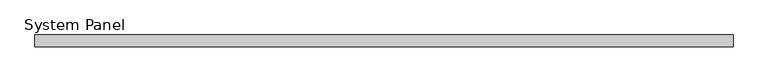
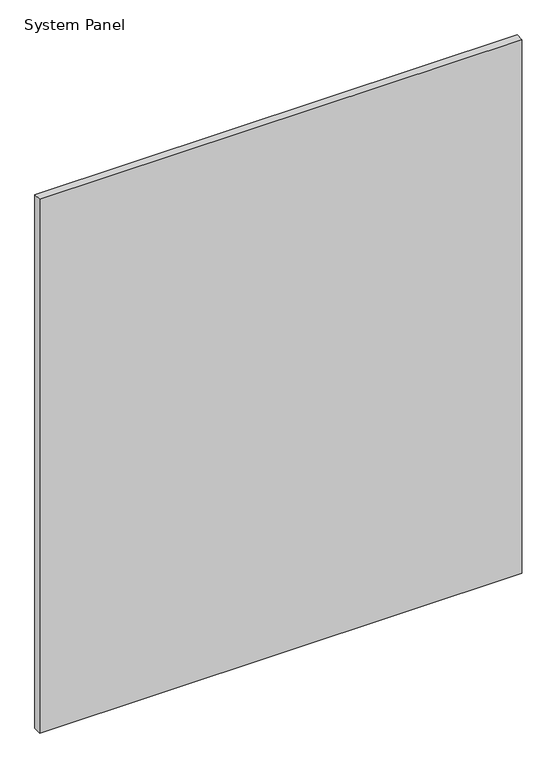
"""IFC4 building model written with IfcOpenShell, lengths in millimetres: plate geometry, System Panel : Panel_Glazed_Generic Showcase_30mm."""

import ifcopenshell
import ifcopenshell.guid

model = None  # the IFC model being written
_history = None  # IfcOwnerHistory: only IFC2X3 demands one
_inside = {}  # id of a spatial element -> (the spatial element, [elements in it])
_under = {}  # id of a project, library or spatial element -> (it, [spatial elements below it])
_declared = {}  # id of a project -> (the project, [libraries it declares])
_typed = {}  # id of a type object -> (the type object, [elements of that type])
_made_of = {}  # id of a material, layer set ... -> (it, [elements and type objects made of it])


def new_model(schema):
    """Start an empty IFC model of exactly this schema.

    Asked for "IFC4X3", IfcOpenShell would pick the latest addendum, in which some entities
    have other attributes; the version numbers below select the first issue.
    IFC2X3 requires an IfcOwnerHistory on every rooted entity: one is made here for all.
    """
    global model, _history
    if schema == "IFC4X3":
        model = ifcopenshell.file(schema_version=(4, 3, 0, 0))
    else:
        model = ifcopenshell.file(schema=schema)
    _inside.clear()
    _under.clear()
    _declared.clear()
    _typed.clear()
    _made_of.clear()
    _history = None
    if model.schema == "IFC2X3":
        org = make("IfcOrganization", Name="unknown")
        user = make(
            "IfcPersonAndOrganization",
            ThePerson=make("IfcPerson", FamilyName="unknown"),
            TheOrganization=org,
        )
        app = make(
            "IfcApplication",
            ApplicationDeveloper=org,
            Version="unknown",
            ApplicationFullName="unknown",
            ApplicationIdentifier="unknown",
        )
        _history = make(
            "IfcOwnerHistory",
            OwningUser=user,
            OwningApplication=app,
            ChangeAction="ADDED",
            CreationDate=0,
        )
    return model


def make(cls, **values):
    """One entity of the class cls with the attributes given. An attribute that is None is left unset."""
    return model.create_entity(
        cls, **{name: value for name, value in values.items() if value is not None}
    )


def rooted(cls, **values):
    """An entity with a GlobalId (a new one), such as an element, a storey or a relation."""
    return make(cls, GlobalId=ifcopenshell.guid.new(), OwnerHistory=_history, **values)


def si_unit(unit_type, name, prefix=None):
    """IfcSIUnit, for example si_unit("LENGTHUNIT", "METRE", prefix="MILLI")."""
    return make("IfcSIUnit", UnitType=unit_type, Prefix=prefix, Name=name)


def assignment(units):
    """IfcUnitAssignment: the units of a project."""
    return None if units is None else make("IfcUnitAssignment", Units=units)


def point(xyz):
    """IfcCartesianPoint."""
    return None if xyz is None else make("IfcCartesianPoint", Coordinates=xyz)


def direction(xyz):
    """IfcDirection."""
    return None if xyz is None else make("IfcDirection", DirectionRatios=xyz)


def frame(location, z_axis=None, x_axis=None):
    """IfcAxis2Placement3D, a coordinate frame: its origin and axes. An axis left out is left unset."""
    return make(
        "IfcAxis2Placement3D",
        Location=point(location),
        Axis=direction(z_axis),
        RefDirection=direction(x_axis),
    )


def origin():
    """The frame at (0, 0, 0) with its axes left unset."""
    return frame((0.0, 0.0, 0.0))


def origin_with_axes():
    """The frame at (0, 0, 0) with the z axis (0, 0, 1) and the x axis (1, 0, 0) written out."""
    return frame((0.0, 0.0, 0.0), z_axis=(0.0, 0.0, 1.0), x_axis=(1.0, 0.0, 0.0))


def place(relative_to, where):
    """IfcLocalPlacement: puts the frame where relative to a parent placement (None: the world)."""
    return make(
        "IfcLocalPlacement", PlacementRelTo=relative_to, RelativePlacement=where
    )


def context(
    kind, dimensions, precision=None, world=None, true_north=None, identifier=None
):
    """IfcGeometricRepresentationContext, for example the 3D "Model" context."""
    return make(
        "IfcGeometricRepresentationContext",
        ContextIdentifier=identifier,
        ContextType=kind,
        CoordinateSpaceDimension=dimensions,
        Precision=precision,
        WorldCoordinateSystem=world,
        TrueNorth=true_north,
    )


def project(units=None, contexts=None):
    """IfcProject with its units and contexts."""
    return rooted(
        "IfcProject",
        Name="project",
        RepresentationContexts=contexts,
        UnitsInContext=assignment(units),
    )


def spatial(cls, under=None, at=None, **own):
    """A site, building, storey or space (cls), placed at a placement, below another one or the project."""
    s = rooted(cls, ObjectPlacement=at, **own)
    if under is not None:
        _under.setdefault(under.id(), (under, []))[1].append(s)
    return s


def polyline(points):
    """IfcPolyline through the points."""
    return make("IfcPolyline", Points=[point(p) for p in points])


def outline(outer, holes=None, kind="AREA"):
    """IfcArbitraryClosedProfileDef: a profile drawn as a closed curve; with holes, ...WithVoids."""
    if holes is None:
        return make("IfcArbitraryClosedProfileDef", ProfileType=kind, OuterCurve=outer)
    return make(
        "IfcArbitraryProfileDefWithVoids",
        ProfileType=kind,
        OuterCurve=outer,
        InnerCurves=holes,
    )


def extrude(swept, where, along, depth):
    """IfcExtrudedAreaSolid: the profile swept, set in the frame where, extruded along a direction by depth."""
    return make(
        "IfcExtrudedAreaSolid",
        SweptArea=swept,
        Position=where,
        ExtrudedDirection=direction(along),
        Depth=depth,
    )


def shape(context_of_items, identifier, shape_type, items):
    """IfcShapeRepresentation: the items that make up one representation, for example the "Body"."""
    return make(
        "IfcShapeRepresentation",
        ContextOfItems=context_of_items,
        RepresentationIdentifier=identifier,
        RepresentationType=shape_type,
        Items=items,
    )


def source(mapping_origin, context_of_items, identifier, shape_type, items):
    """IfcRepresentationMap: a shape defined once, which mapped items show again and again."""
    return make(
        "IfcRepresentationMap",
        MappingOrigin=mapping_origin,
        MappedRepresentation=shape(context_of_items, identifier, shape_type, items),
    )


def transform(
    local_origin,
    x_axis=None,
    y_axis=None,
    z_axis=None,
    scale=None,
    scale2=None,
    scale3=None,
    uniform=True,
):
    """IfcCartesianTransformationOperator3D, or its non-uniform kind. x_axis, y_axis, z_axis: its Axis1, 2, 3."""
    if uniform:
        return make(
            "IfcCartesianTransformationOperator3D",
            Axis1=direction(x_axis),
            Axis2=direction(y_axis),
            LocalOrigin=point(local_origin),
            Scale=scale,
            Axis3=direction(z_axis),
        )
    return make(
        "IfcCartesianTransformationOperator3DnonUniform",
        Axis1=direction(x_axis),
        Axis2=direction(y_axis),
        LocalOrigin=point(local_origin),
        Scale=scale,
        Axis3=direction(z_axis),
        Scale2=scale2,
        Scale3=scale3,
    )


def mapped(mapping_source, mapping_target):
    """IfcMappedItem: shows the shape of a source again, moved by a transform."""
    return make(
        "IfcMappedItem", MappingSource=mapping_source, MappingTarget=mapping_target
    )


def made_of(thing, what):
    """Note that an element or type object is made of a material, layer set ...; save() writes the relation."""
    if what is not None:
        _made_of.setdefault(what.id(), (what, []))[1].append(thing)
    return thing


def element(
    cls,
    number,
    at=None,
    inside=None,
    cuts=None,
    type_object=None,
    material=None,
    context=None,
    identifier="Body",
    shape_type=None,
    held_by="IfcProductDefinitionShape",
    body=None,
    shapes=None,
    **own,
):
    """One element of the class cls, such as IfcWall. Its Tag is "e" and its number.

    at: its placement. inside: the storey or other place that contains it. cuts: it is an
    opening in that element (IfcRelVoidsElement). A single representation is given by context,
    identifier, shape_type and body (its items); several are given by shapes. held_by: the class
    of the entity that holds the representations. save() writes the other relations.
    """
    e = rooted(cls, Tag="e%d" % number, ObjectPlacement=at, **own)
    if body is not None:
        shapes = [shape(context, identifier, shape_type, body)]
    if shapes is not None:
        e.Representation = make(held_by, Representations=shapes)
    if inside is not None:
        _inside.setdefault(inside.id(), (inside, []))[1].append(e)
    if cuts is not None:
        rooted(
            "IfcRelVoidsElement", RelatingBuildingElement=cuts, RelatedOpeningElement=e
        )
    if type_object is not None:
        _typed.setdefault(type_object.id(), (type_object, []))[1].append(e)
    return made_of(e, material)


def aggregate(whole, parts):
    """IfcRelAggregates: a whole, such as a stair, and the parts it consists of."""
    return rooted("IfcRelAggregates", RelatingObject=whole, RelatedObjects=parts)


def save(model, path):
    """Write the relations noted so far, then the file.

    IfcRelAggregates (storeys below a building ...), IfcRelContainedInSpatialStructure (elements
    in a storey), IfcRelDefinesByType, IfcRelAssociatesMaterial and IfcRelDeclares: one each for
    every whole, place, type object, material and project.
    """
    for whole, parts in _under.values():
        aggregate(whole, parts)
    for where, things in _inside.values():
        rooted(
            "IfcRelContainedInSpatialStructure",
            RelatedElements=things,
            RelatingStructure=where,
        )
    for kind, things in _typed.values():
        rooted("IfcRelDefinesByType", RelatedObjects=things, RelatingType=kind)
    for what, things in _made_of.values():
        rooted("IfcRelAssociatesMaterial", RelatedObjects=things, RelatingMaterial=what)
    for by, libraries in _declared.values():
        rooted("IfcRelDeclares", RelatingContext=by, RelatedDefinitions=libraries)
    model.write(path)


def system_panel_c7027d83(model_context):
    return source(origin(), model_context, "Body", "SweptSolid", [
        extrude(outline(polyline([(875.9897739, -30.0), (-875.9897739, -30.0), (-875.9897739, 0.0), (875.9897739, 0.0), (875.9897739, -30.0)])), origin_with_axes(), (0.0, 0.0, 1.0), 2050.0),
    ])


if __name__ == "__main__":
    model = new_model("IFC4")
    model_context = context("Model", 3, world=origin())
    ifc_project = project(units=[si_unit("LENGTHUNIT", "METRE", prefix="MILLI")], contexts=[model_context])
    site = spatial("IfcSite", under=ifc_project)
    building = spatial("IfcBuilding", under=site)
    placement = place(None, origin())
    system_panel_shape = system_panel_c7027d83(model_context)
    element("IfcPlate", 1, ObjectType="System Panel : Panel_Glazed_Generic Showcase_30mm", at=placement, inside=building, context=model_context, shape_type="MappedRepresentation", body=[
        mapped(system_panel_shape, transform((0.0, 0.0, 0.0), x_axis=(1.0, 0.0, 0.0), y_axis=(0.0, 1.0, 0.0), z_axis=(0.0, 0.0, 1.0))),
    ])
    save(model, "model.ifc")
